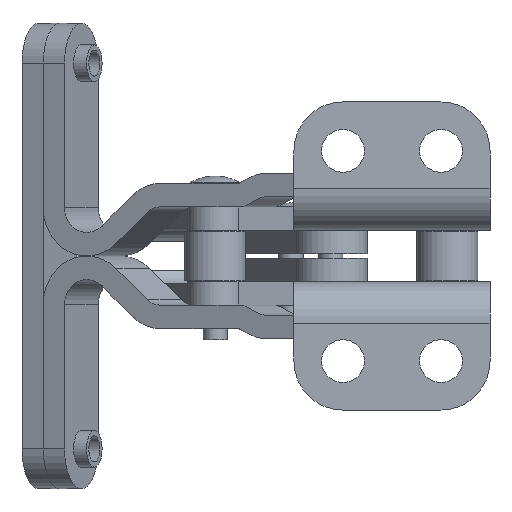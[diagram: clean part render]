
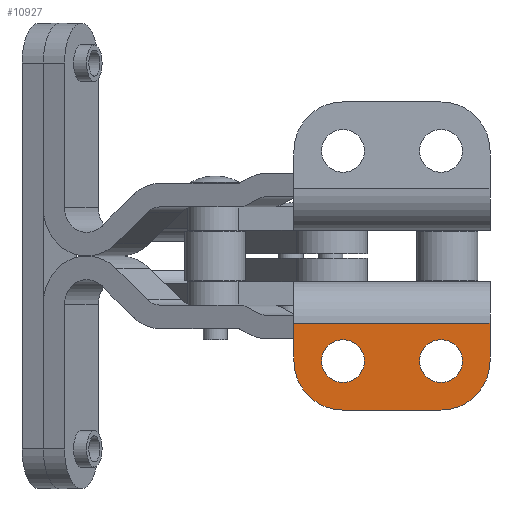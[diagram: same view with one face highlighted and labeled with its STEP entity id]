
A CAD part, front view. The second image highlights one B-rep face of the part: STEP entity #10927.
In plain terms, the highlighted planar face has unit normal (0, -1, 0).
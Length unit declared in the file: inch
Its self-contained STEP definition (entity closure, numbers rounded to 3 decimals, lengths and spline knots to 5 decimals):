
#149=FACE_BOUND('',#1667,.T.);
#150=FACE_BOUND('',#1668,.T.);
#487=PLANE('',#11609);
#1011=FACE_OUTER_BOUND('',#1666,.T.);
#1666=EDGE_LOOP('',(#8928,#8929,#8930,#8931,#8932,#8933));
#1667=EDGE_LOOP('',(#8934));
#1668=EDGE_LOOP('',(#8935));
#2733=LINE('',#16476,#4049);
#2737=LINE('',#16487,#4053);
#2750=LINE('',#16536,#4066);
#2752=LINE('',#16539,#4068);
#4049=VECTOR('',#13310,0.193);
#4053=VECTOR('',#13318,0.193);
#4066=VECTOR('',#13367,0.5);
#4068=VECTOR('',#13371,1.);
#4802=CIRCLE('',#11610,0.25);
#4803=CIRCLE('',#11611,0.25);
#4804=CIRCLE('',#11612,0.109);
#4805=CIRCLE('',#11613,0.109);
#5397=VERTEX_POINT('',#16473);
#5398=VERTEX_POINT('',#16475);
#5402=VERTEX_POINT('',#16485);
#5403=VERTEX_POINT('',#16486);
#5420=VERTEX_POINT('',#16533);
#5421=VERTEX_POINT('',#16535);
#5422=VERTEX_POINT('',#16542);
#5423=VERTEX_POINT('',#16544);
#6670=EDGE_CURVE('',#5397,#5398,#2733,.T.);
#6675=EDGE_CURVE('',#5402,#5403,#2737,.T.);
#6698=EDGE_CURVE('',#5420,#5421,#2750,.T.);
#6700=EDGE_CURVE('',#5397,#5402,#2752,.T.);
#6701=EDGE_CURVE('',#5403,#5421,#4802,.T.);
#6702=EDGE_CURVE('',#5420,#5398,#4803,.T.);
#6703=EDGE_CURVE('',#5422,#5422,#4804,.T.);
#6704=EDGE_CURVE('',#5423,#5423,#4805,.T.);
#8928=ORIENTED_EDGE('',*,*,#6670,.F.);
#8929=ORIENTED_EDGE('',*,*,#6700,.T.);
#8930=ORIENTED_EDGE('',*,*,#6675,.T.);
#8931=ORIENTED_EDGE('',*,*,#6701,.T.);
#8932=ORIENTED_EDGE('',*,*,#6698,.F.);
#8933=ORIENTED_EDGE('',*,*,#6702,.T.);
#8934=ORIENTED_EDGE('',*,*,#6703,.F.);
#8935=ORIENTED_EDGE('',*,*,#6704,.F.);
#10927=ADVANCED_FACE('',(#1011,#149,#150),#487,.T.);
#11609=AXIS2_PLACEMENT_3D('',#16538,#13369,#13370);
#11610=AXIS2_PLACEMENT_3D('',#16540,#13372,#13373);
#11611=AXIS2_PLACEMENT_3D('',#16541,#13374,#13375);
#11612=AXIS2_PLACEMENT_3D('',#16543,#13376,#13377);
#11613=AXIS2_PLACEMENT_3D('',#16545,#13378,#13379);
#13310=DIRECTION('',(0.,0.,-1.));
#13318=DIRECTION('',(0.,0.,-1.));
#13367=DIRECTION('',(-1.,0.,0.));
#13369=DIRECTION('center_axis',(0.,-1.,0.));
#13370=DIRECTION('ref_axis',(0.,0.,-1.));
#13371=DIRECTION('',(-1.,0.,0.));
#13372=DIRECTION('center_axis',(0.,-1.,0.));
#13373=DIRECTION('ref_axis',(0.,0.,
-1.));
#13374=DIRECTION('center_axis',(0.,-1.,0.));
#13375=DIRECTION('ref_axis',(0.,0.,
-1.));
#13376=DIRECTION('center_axis',(0.,-1.,0.));
#13377=DIRECTION('ref_axis',(0.,0.,
-1.));
#13378=DIRECTION('center_axis',(0.,-1.,0.));
#13379=DIRECTION('ref_axis',(0.,0.,
-1.));
#16473=CARTESIAN_POINT('',(-1.206,-2.15325,0.73075));
#16475=CARTESIAN_POINT('',(-1.206,-2.15325,0.53775));
#16476=CARTESIAN_POINT('',(-1.206,-2.15325,0.94335));
#16485=CARTESIAN_POINT('',(-2.206,-2.15325,0.73075));
#16486=CARTESIAN_POINT('',(-2.206,-2.15325,0.53775));
#16487=CARTESIAN_POINT('',(-2.206,-2.15325,0.94335));
#16533=CARTESIAN_POINT('',(-1.456,-2.15325,0.28775));
#16535=CARTESIAN_POINT('',(-1.956,-2.15325,0.28775));
#16536=CARTESIAN_POINT('',(-1.206,-2.15325,0.28775));
#16538=CARTESIAN_POINT('Origin',(-1.206,-2.15325,0.94335));
#16539=CARTESIAN_POINT('',(-1.206,-2.15325,0.73075));
#16540=CARTESIAN_POINT('Origin',(-1.956,-2.15325,0.53775));
#16541=CARTESIAN_POINT('Origin',(-1.456,-2.15325,0.53775));
#16542=CARTESIAN_POINT('',(-1.956,-2.15325,0.42875));
#16543=CARTESIAN_POINT('Origin',(-1.956,-2.15325,0.53775));
#16544=CARTESIAN_POINT('',(-1.456,-2.15325,0.42875));
#16545=CARTESIAN_POINT('Origin',(-1.456,-2.15325,0.53775));
